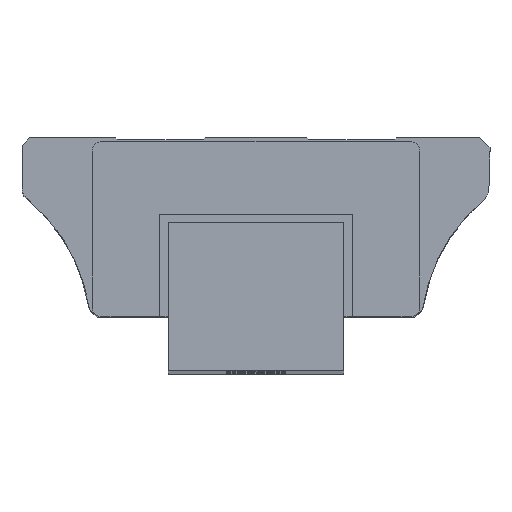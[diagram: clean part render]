
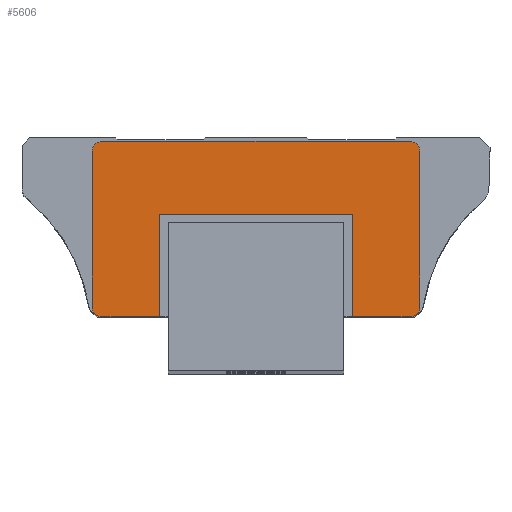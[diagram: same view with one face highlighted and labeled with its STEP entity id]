
A CAD part, top view. The second image highlights one B-rep face of the part: STEP entity #5606.
In plain terms, the highlighted planar face has unit normal (0, 0, 1).
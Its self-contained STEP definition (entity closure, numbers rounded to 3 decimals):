
#5080=CARTESIAN_POINT('',(47.3,14.1,351.5));
#5081=VERTEX_POINT('',#5080);
#5082=CARTESIAN_POINT('',(47.3,40.3,351.5));
#5083=VERTEX_POINT('',#5082);
#5084=CARTESIAN_POINT('',(47.3,14.1,351.5));
#5085=DIRECTION('',(0.0,1.0,0.0));
#5086=VECTOR('',#5085,1.0);
#5087=LINE('',#5084,#5086);
#5088=EDGE_CURVE('',#5081,#5083,#5087,.T.);
#5120=CARTESIAN_POINT('',(-2.3,40.3,351.5));
#5121=VERTEX_POINT('',#5120);
#5122=CARTESIAN_POINT('',(47.3,40.3,351.5));
#5123=DIRECTION('',(-1.0,0.0,0.0));
#5124=VECTOR('',#5123,1.0);
#5125=LINE('',#5122,#5124);
#5126=EDGE_CURVE('',#5083,#5121,#5125,.T.);
#5253=CARTESIAN_POINT('',(-2.3,14.1,351.5));
#5254=VERTEX_POINT('',#5253);
#5255=CARTESIAN_POINT('',(-2.3,40.3,351.5));
#5256=DIRECTION('',(0.0,-1.0,0.0));
#5257=VECTOR('',#5256,1.0);
#5258=LINE('',#5255,#5257);
#5259=EDGE_CURVE('',#5121,#5254,#5258,.T.);
#5310=CARTESIAN_POINT('',(-17.,14.1,351.5));
#5311=VERTEX_POINT('',#5310);
#5312=CARTESIAN_POINT('',(-2.3,14.1,351.5));
#5313=DIRECTION('',(-1.0,0.0,0.0));
#5314=VECTOR('',#5313,1.0);
#5315=LINE('',#5312,#5314);
#5316=EDGE_CURVE('',#5254,#5311,#5315,.T.);
#5343=CARTESIAN_POINT('',(-19.5,16.6,351.5));
#5344=VERTEX_POINT('',#5343);
#5345=CARTESIAN_POINT('',(-17.,16.6,351.5));
#5346=DIRECTION('',(0.0,0.0,-1.0));
#5347=DIRECTION('',(0.,-1.0,0.0));
#5348=AXIS2_PLACEMENT_3D('',#5345,#5346,#5347);
#5349=CIRCLE('',#5348,2.5);
#5350=EDGE_CURVE('',#5311,#5344,#5349,.T.);
#5376=CARTESIAN_POINT('',(-19.5,56.6,351.5));
#5377=VERTEX_POINT('',#5376);
#5378=CARTESIAN_POINT('',(-19.5,16.6,351.5));
#5379=DIRECTION('',(0.0,1.0,0.0));
#5380=VECTOR('',#5379,1.0);
#5381=LINE('',#5378,#5380);
#5382=EDGE_CURVE('',#5344,#5377,#5381,.T.);
#5407=CARTESIAN_POINT('',(-17.,59.1,351.5));
#5408=VERTEX_POINT('',#5407);
#5409=CARTESIAN_POINT('',(-17.,56.6,351.5));
#5410=DIRECTION('',(0.,0.,-1.0));
#5411=DIRECTION('',(-1.0,0.,0.));
#5412=AXIS2_PLACEMENT_3D('',#5409,#5410,#5411);
#5413=CIRCLE('',#5412,2.5);
#5414=EDGE_CURVE('',#5377,#5408,#5413,.T.);
#5440=CARTESIAN_POINT('',(62.,59.1,351.5));
#5441=VERTEX_POINT('',#5440);
#5442=CARTESIAN_POINT('',(-17.,59.1,351.5));
#5443=DIRECTION('',(1.0,0.0,0.0));
#5444=VECTOR('',#5443,1.0);
#5445=LINE('',#5442,#5444);
#5446=EDGE_CURVE('',#5408,#5441,#5445,.T.);
#5471=CARTESIAN_POINT('',(64.5,56.6,351.5));
#5472=VERTEX_POINT('',#5471);
#5473=CARTESIAN_POINT('',(62.,56.6,351.5));
#5474=DIRECTION('',(0.,0.,-1.0));
#5475=DIRECTION('',(0.,1.0,0.));
#5476=AXIS2_PLACEMENT_3D('',#5473,#5474,#5475);
#5477=CIRCLE('',#5476,2.5);
#5478=EDGE_CURVE('',#5441,#5472,#5477,.T.);
#5504=CARTESIAN_POINT('',(64.5,16.6,351.5));
#5505=VERTEX_POINT('',#5504);
#5506=CARTESIAN_POINT('',(64.5,56.6,351.5));
#5507=DIRECTION('',(0.0,-1.0,0.0));
#5508=VECTOR('',#5507,1.0);
#5509=LINE('',#5506,#5508);
#5510=EDGE_CURVE('',#5472,#5505,#5509,.T.);
#5535=CARTESIAN_POINT('',(62.,14.1,351.5));
#5536=VERTEX_POINT('',#5535);
#5537=CARTESIAN_POINT('',(62.,16.6,351.5));
#5538=DIRECTION('',(0.0,0.0,-1.0));
#5539=DIRECTION('',(1.0,0.0,0.0));
#5540=AXIS2_PLACEMENT_3D('',#5537,#5538,#5539);
#5541=CIRCLE('',#5540,2.5);
#5542=EDGE_CURVE('',#5505,#5536,#5541,.T.);
#5568=CARTESIAN_POINT('',(62.,14.1,351.5));
#5569=DIRECTION('',(-1.0,0.0,0.0));
#5570=VECTOR('',#5569,1.0);
#5571=LINE('',#5568,#5570);
#5572=EDGE_CURVE('',#5536,#5081,#5571,.T.);
#5587=CARTESIAN_POINT('',(-23.7,11.85,351.5));
#5588=DIRECTION('',(0.0,0.0,1.0));
#5589=DIRECTION('',(1.0,0.0,0.0));
#5590=AXIS2_PLACEMENT_3D('',#5587,#5588,#5589);
#5591=PLANE('',#5590);
#5592=ORIENTED_EDGE('',*,*,#5088,.F.);
#5593=ORIENTED_EDGE('',*,*,#5572,.F.);
#5594=ORIENTED_EDGE('',*,*,#5542,.F.);
#5595=ORIENTED_EDGE('',*,*,#5510,.F.);
#5596=ORIENTED_EDGE('',*,*,#5478,.F.);
#5597=ORIENTED_EDGE('',*,*,#5446,.F.);
#5598=ORIENTED_EDGE('',*,*,#5414,.F.);
#5599=ORIENTED_EDGE('',*,*,#5382,.F.);
#5600=ORIENTED_EDGE('',*,*,#5350,.F.);
#5601=ORIENTED_EDGE('',*,*,#5316,.F.);
#5602=ORIENTED_EDGE('',*,*,#5259,.F.);
#5603=ORIENTED_EDGE('',*,*,#5126,.F.);
#5604=EDGE_LOOP('',(#5592,#5593,#5594,#5595,#5596,#5597,#5598,#5599,#5600,#5601,#5602,#5603));
#5605=FACE_OUTER_BOUND('',#5604,.T.);
#5606=ADVANCED_FACE('',(#5605),#5591,.T.);
